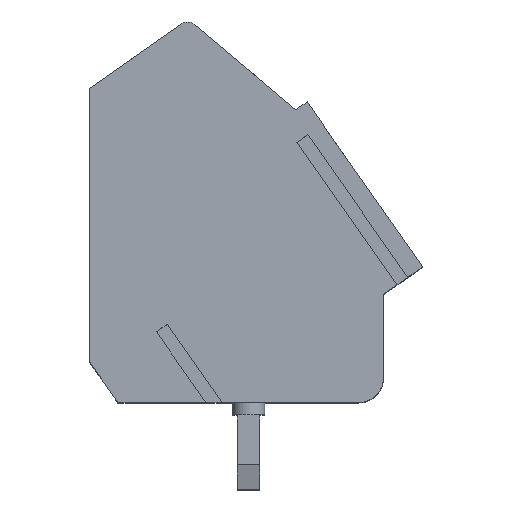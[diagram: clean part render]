
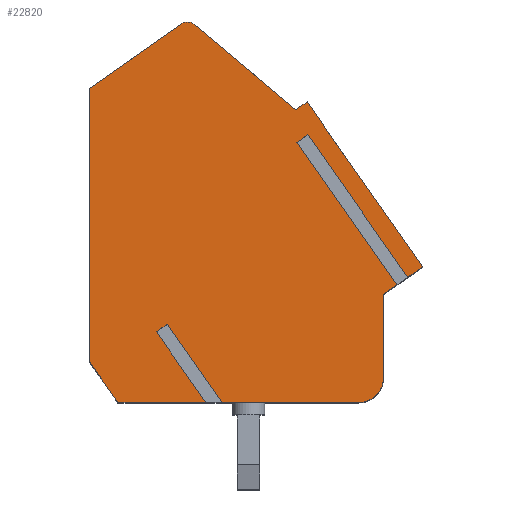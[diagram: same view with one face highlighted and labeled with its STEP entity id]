
A CAD part, top view. The second image highlights one B-rep face of the part: STEP entity #22820.
In plain terms, the highlighted planar face has unit normal (0, 0, 1).
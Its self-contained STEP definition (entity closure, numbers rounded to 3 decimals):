
#3030=CARTESIAN_POINT('',(38.579,18.108,
   -7.5));
#3040=DIRECTION('',(0.,0.,
   1.));
#3050=DIRECTION('',(0.342,-0.94,
   0.));
#3060=AXIS2_PLACEMENT_3D('',#3030,#3040,#3050);
#3070=CIRCLE('',#3060,0.4);
#3080=CARTESIAN_POINT('',(38.955,17.971,
   -7.5));
#3090=VERTEX_POINT('',#3080);
#3100=CARTESIAN_POINT('',(38.809,18.436,
   -7.5));
#3110=VERTEX_POINT('',#3100);
#3120=EDGE_CURVE('',#3090,#3110,#3070,.T.);
#5250=CARTESIAN_POINT('',(32.934,5.998,
   -7.5));
#5260=VERTEX_POINT('',#5250);
#5290=CARTESIAN_POINT('',(25.145,-5.126
   ,-7.5));
#5300=DIRECTION('',(-0.574,-0.819,
   0.));
#5310=VECTOR('',#5300,1.);
#5320=LINE('',#5290,#5310);
#5330=CARTESIAN_POINT('',(37.58,12.633,
   -7.5));
#5340=VERTEX_POINT('',#5330);
#5350=EDGE_CURVE('',#5340,#5260,#5320,.T.);
#7750=CARTESIAN_POINT('',(-6.679,33.735
   ,-7.5));
#7760=DIRECTION('',(-0.819,0.574,
   0.));
#7770=VECTOR('',#7760,1.);
#7780=LINE('',#7750,#7770);
#7790=CARTESIAN_POINT('',(31.894,6.726,
   -7.5));
#7800=VERTEX_POINT('',#7790);
#7810=CARTESIAN_POINT('',(31.362,7.098,
   -7.5));
#7820=VERTEX_POINT('',#7810);
#7830=EDGE_CURVE('',#7800,#7820,#7780,.T.);
#8370=CARTESIAN_POINT('',(32.335,6.417,
   -7.5));
#8380=VERTEX_POINT('',#8370);
#8410=EDGE_CURVE('',#5260,#8380,#7780,.T.);
#10080=CARTESIAN_POINT('',(24.828,12.325
   ,-7.5));
#10090=VERTEX_POINT('',#10080);
#10120=CARTESIAN_POINT('',(20.857,6.654
   ,-7.5));
#10130=DIRECTION('',(0.574,0.819,
   0.));
#10140=VECTOR('',#10130,1.);
#10150=LINE('',#10120,#10140);
#10160=CARTESIAN_POINT('',(26.816,15.165
   ,-7.5));
#10170=VERTEX_POINT('',#10160);
#10180=EDGE_CURVE('',#10090,#10170,#10150,.T.);
#10500=CARTESIAN_POINT('',(2.613,37.117
   ,-7.5));
#10510=DIRECTION('',(0.819,-0.574,
   0.));
#10520=VECTOR('',#10510,1.);
#10530=LINE('',#10500,#10520);
#10540=CARTESIAN_POINT('',(37.127,12.95
   ,-7.5));
#10550=VERTEX_POINT('',#10540);
#10560=EDGE_CURVE('',#10550,#5340,#10530,.T.);
#11610=CARTESIAN_POINT('',(25.053,11.708
   ,-7.5));
#11620=VERTEX_POINT('',#11610);
#11770=CARTESIAN_POINT('',(27.257,14.856
   ,-7.5));
#11780=VERTEX_POINT('',#11770);
#11810=CARTESIAN_POINT('',(21.082,6.037
   ,-7.5));
#11820=DIRECTION('',(-0.574,-0.819,
   0.));
#11830=VECTOR('',#11820,1.);
#11840=LINE('',#11810,#11830);
#11850=EDGE_CURVE('',#11780,#11620,#11840,.T.);
#15400=CARTESIAN_POINT('',(26.93,6.549
   ,-7.5));
#15410=VERTEX_POINT('',#15400);
#15440=CARTESIAN_POINT('',(27.87,6.891
   ,-7.5));
#15450=DIRECTION('',(0.,0.,
   1.));
#15460=DIRECTION('',(0.342,-0.94,
   0.));
#15470=AXIS2_PLACEMENT_3D('',#15440,#15450,#15460);
#15480=CIRCLE('',#15470,1.);
#15490=CARTESIAN_POINT('',(28.212,5.952
   ,-7.5));
#15500=VERTEX_POINT('',#15490);
#15510=EDGE_CURVE('',#15410,#15500,#15480,.T.);
#17310=CARTESIAN_POINT('',(35.909,12.46
   ,-7.5));
#17320=VERTEX_POINT('',#17310);
#17350=CARTESIAN_POINT('',(1.351,36.658
   ,-7.5));
#17360=DIRECTION('',(-0.819,0.574,
   0.));
#17370=VECTOR('',#17360,1.);
#17380=LINE('',#17350,#17370);
#17390=CARTESIAN_POINT('',(36.35,12.151
   ,-7.5));
#17400=VERTEX_POINT('',#17390);
#17410=EDGE_CURVE('',#17400,#17320,#17380,.T.);
#18900=CARTESIAN_POINT('',(24.615,
   -3.67,-7.5));
#18910=DIRECTION('',(0.574,0.819,
   0.));
#18920=VECTOR('',#18910,1.);
#18930=LINE('',#18900,#18920);
#18940=EDGE_CURVE('',#7800,#17320,#18930,.T.);
#19210=CARTESIAN_POINT('',(24.84,
   -4.287,-7.5));
#19220=DIRECTION('',(-0.574,-0.819,
   0.));
#19230=VECTOR('',#19220,1.);
#19240=LINE('',#19210,#19230);
#19250=EDGE_CURVE('',#17400,#8380,#19240,.T.);
#21950=CARTESIAN_POINT('',(0.,
   33.941,-7.5));
#21960=DIRECTION('',(-0.819,0.574,
   0.));
#21970=VECTOR('',#21960,1.);
#21980=LINE('',#21950,#21970);
#21990=EDGE_CURVE('',#11780,#10170,#21980,.T.);
#22150=CARTESIAN_POINT('',(28.537,17.622
   ,-7.5));
#22160=DIRECTION('',(0.,0.,
   1.));
#22170=DIRECTION('',(0.819,-0.574,
   0.));
#22180=AXIS2_PLACEMENT_3D('',#22150,#22160,#22170);
#22190=PLANE('',#22180);
#22200=ORIENTED_EDGE('',*,*,#21990,.F.);
#22210=ORIENTED_EDGE('',*,*,#10180,.T.);
#22220=CARTESIAN_POINT('',(14.261,41.357
   ,-7.5));
#22230=DIRECTION('',(-0.342,0.94,
   0.));
#22240=VECTOR('',#22230,1.);
#22250=LINE('',#22220,#22240);
#22260=CARTESIAN_POINT('',(23.619,15.647
   ,-7.5));
#22270=VERTEX_POINT('',#22260);
#22280=EDGE_CURVE('',#10090,#22270,#22250,.T.);
#22290=ORIENTED_EDGE('',*,*,#22280,.F.);
#22300=CARTESIAN_POINT('',(19.648,9.976
   ,-7.5));
#22310=DIRECTION('',(0.574,0.819,
   0.));
#22320=VECTOR('',#22310,1.);
#22330=LINE('',#22300,#22320);
#22340=CARTESIAN_POINT('',(24.766,17.285
   ,-7.5));
#22350=VERTEX_POINT('',#22340);
#22360=EDGE_CURVE('',#22270,#22350,#22330,.T.);
#22370=ORIENTED_EDGE('',*,*,#22360,.F.);
#22380=CARTESIAN_POINT('',(17.898,14.785
   ,-7.5));
#22390=DIRECTION('',(0.94,0.342,
   0.));
#22400=VECTOR('',#22390,1.);
#22410=LINE('',#22380,#22400);
#22420=CARTESIAN_POINT('',(35.087,21.042
   ,-7.5));
#22430=VERTEX_POINT('',#22420);
#22440=EDGE_CURVE('',#22350,#22430,#22410,.T.);
#22450=ORIENTED_EDGE('',*,*,#22440,.F.);
#22460=CARTESIAN_POINT('',(8.874,39.396
   ,-7.5));
#22470=DIRECTION('',(-0.819,0.574,
   0.));
#22480=VECTOR('',#22470,1.);
#22490=LINE('',#22460,#22480);
#22500=EDGE_CURVE('',#3110,#22430,#22490,.T.);
#22510=ORIENTED_EDGE('',*,*,#22500,.T.);
#22520=ORIENTED_EDGE('',*,*,#3120,.T.);
#22530=CARTESIAN_POINT('',(52.537,55.288
   ,-7.5));
#22540=DIRECTION('',(-0.342,-0.94,
   0.));
#22550=VECTOR('',#22540,1.);
#22560=LINE('',#22530,#22550);
#22570=EDGE_CURVE('',#3090,#10550,#22560,.T.);
#22580=ORIENTED_EDGE('',*,*,#22570,.F.);
#22590=ORIENTED_EDGE('',*,*,#10560,.F.);
#22600=ORIENTED_EDGE('',*,*,#5350,.F.);
#22610=ORIENTED_EDGE('',*,*,#8410,.F.);
#22620=ORIENTED_EDGE('',*,*,#19250,.T.);
#22630=ORIENTED_EDGE('',*,*,#17410,.F.);
#22640=ORIENTED_EDGE('',*,*,#18940,.T.);
#22650=ORIENTED_EDGE('',*,*,#7830,.F.);
#22660=CARTESIAN_POINT('',(21.943,3.67
   ,-7.5));
#22670=DIRECTION('',(-0.94,-0.342,
   0.));
#22680=VECTOR('',#22670,1.);
#22690=LINE('',#22660,#22680);
#22700=EDGE_CURVE('',#7820,#15500,#22690,.T.);
#22710=ORIENTED_EDGE('',*,*,#22700,.F.);
#22720=ORIENTED_EDGE('',*,*,#15510,.T.);
#22730=CARTESIAN_POINT('',(14.261,41.357
   ,-7.5));
#22740=DIRECTION('',(-0.342,0.94,
   0.));
#22750=VECTOR('',#22740,1.);
#22760=LINE('',#22730,#22750);
#22770=EDGE_CURVE('',#15410,#11620,#22760,.T.);
#22780=ORIENTED_EDGE('',*,*,#22770,.F.);
#22790=ORIENTED_EDGE('',*,*,#11850,.T.);
#22800=EDGE_LOOP('',(#22790,#22780,#22720,#22710,#22650,#22640,#22630,
   #22620,#22610,#22600,#22590,#22580,#22520,#22510,#22450,#22370,#22290
   ,#22210,#22200));
#22810=FACE_OUTER_BOUND('',#22800,.T.);
#22820=ADVANCED_FACE('',(#22810),#22190,.T.);
